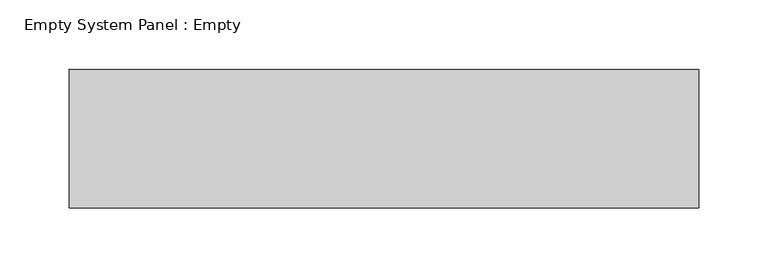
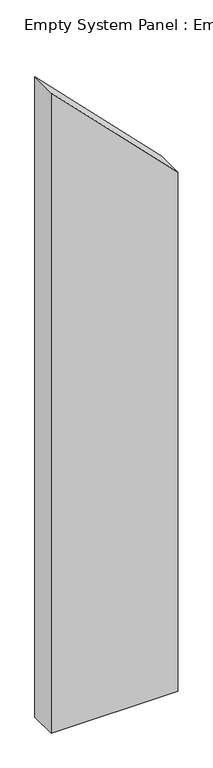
"""IFC4 building model written with IfcOpenShell, lengths in millimetres: plate geometry, Empty System Panel : Empty."""

from ifc_helpers import new_model, si_unit, frame, origin, place, context, project, spatial, polyline, outline, extrude, source, transform, mapped, element, save


def empty_system_panel_empty_0e9da7a2(model_context):
    return source(origin(), model_context, "Body", "SweptSolid", [
        extrude(outline(polyline([(0.0, -226.4404253), (0.0, 226.4404253), (1956.9175624, 226.4404253), (2414.8649818, -226.4404253), (0.0, -226.4404253)])), frame((0.0, -50.0, 0.0), z_axis=(0.0, 1.0, 0.0), x_axis=(0.0, 0.0, 1.0)), (0.0, 0.0, 1.0), 100.0),
    ])


if __name__ == "__main__":
    model = new_model("IFC4")
    model_context = context("Model", 3, world=origin())
    ifc_project = project(units=[si_unit("LENGTHUNIT", "METRE", prefix="MILLI")], contexts=[model_context])
    site = spatial("IfcSite", under=ifc_project)
    building = spatial("IfcBuilding", under=site)
    placement = place(None, origin())
    empty_system_panel_empty_shape = empty_system_panel_empty_0e9da7a2(model_context)
    element("IfcPlate", 1, ObjectType="Empty System Panel : Empty", at=placement, inside=building, context=model_context, shape_type="MappedRepresentation", body=[
        mapped(empty_system_panel_empty_shape, transform((0.0, 0.0, 0.0), x_axis=(1.0, 0.0, 0.0), y_axis=(0.0, 1.0, 0.0), z_axis=(0.0, 0.0, 1.0))),
    ])
    save(model, "model.ifc")
